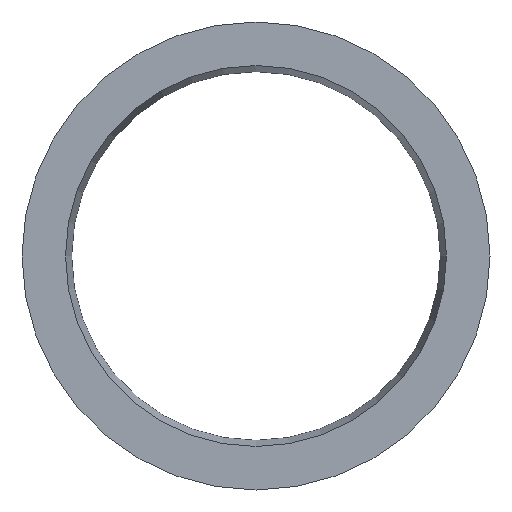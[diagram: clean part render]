
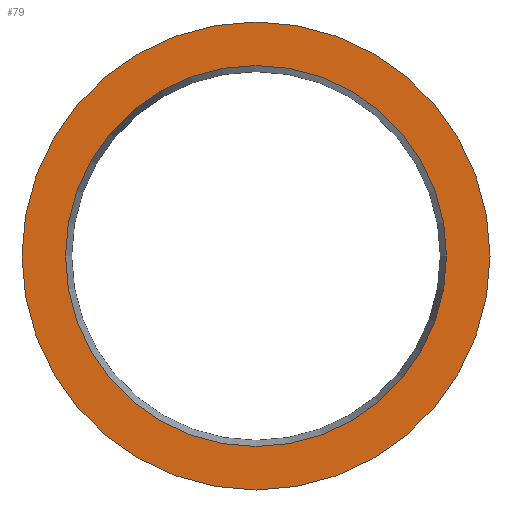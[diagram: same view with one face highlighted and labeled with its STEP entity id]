
A CAD part, front view. The second image highlights one B-rep face of the part: STEP entity #79.
In plain terms, the highlighted planar face has unit normal (0, -1, 0).
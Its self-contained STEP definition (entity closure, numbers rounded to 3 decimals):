
#79 = ADVANCED_FACE( '', ( #94, #95 ), #96, .T. );
#94 = FACE_OUTER_BOUND( '', #112, .T. );
#95 = FACE_BOUND( '', #113, .T. );
#96 = PLANE( '', #114 );
#112 = EDGE_LOOP( '', ( #138 ) );
#113 = EDGE_LOOP( '', ( #139 ) );
#114 = AXIS2_PLACEMENT_3D( '', #140, #141, #142 );
#138 = ORIENTED_EDGE( '', *, *, #153, .T. );
#139 = ORIENTED_EDGE( '', *, *, #152, .F. );
#140 = CARTESIAN_POINT( '', ( 10.5, 0., 0. ) );
#141 = DIRECTION( '', ( 0., -1., 0. ) );
#142 = DIRECTION( '', ( 0., 0., -1. ) );
#152 = EDGE_CURVE( '', #162, #162, #163, .T. );
#153 = EDGE_CURVE( '', #164, #164, #165, .T. );
#162 = VERTEX_POINT( '', #174 );
#163 = CIRCLE( '', #175, 10.5 );
#164 = VERTEX_POINT( '', #176 );
#165 = CIRCLE( '', #177, 12.9 );
#174 = CARTESIAN_POINT( '', ( 0., 0., -10.5 ) );
#175 = AXIS2_PLACEMENT_3D( '', #190, #191, #192 );
#176 = CARTESIAN_POINT( '', ( 0., 0., -12.9 ) );
#177 = AXIS2_PLACEMENT_3D( '', #193, #194, #195 );
#190 = CARTESIAN_POINT( '', ( 0., 0., 0. ) );
#191 = DIRECTION( '', ( 0., -1., 0. ) );
#192 = DIRECTION( '', ( 0., 0., -1. ) );
#193 = CARTESIAN_POINT( '', ( 0., 0., 0. ) );
#194 = DIRECTION( '', ( 0., -1., 0. ) );
#195 = DIRECTION( '', ( 0., 0., -1. ) );
